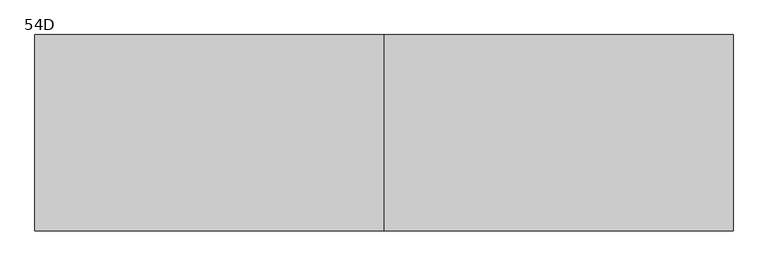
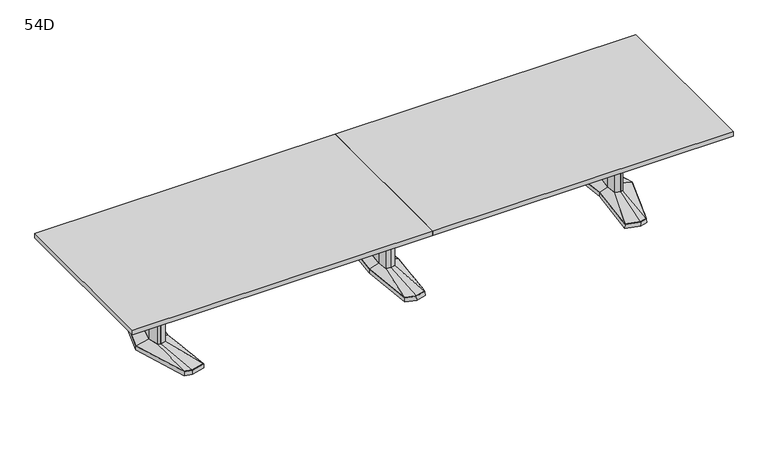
"""IFC4 building model written with IfcOpenShell, lengths in millimetres: furniture geometry, Coalesse_AM_Table_Conference_ETable2_Rectangular_16ft_AluminiumBase : 54D."""

from ifc_helpers import new_model, si_unit, frame, origin, place, context, project, spatial, polyline, outline, extrude, faceted_brep, source, transform, mapped, element, save
from ifc_brep_helpers import plane_surface, spline_surface, advanced_brep


def furniture_54d_c7ea6fb3(model_context):
    return source(origin(), model_context, "Body", "SolidModel", [
        faceted_brep([(-81.2333791, -433.8053819, 38.1), (0.0, -455.556576, 38.1), (81.2333791, -433.8053819, 38.1), (119.0564774, 0.0, 38.1), (81.2333791, 433.8053819, 38.1), (0.0, 455.556576, 38.1), (-81.2333791, 433.8053819, 38.1), (-119.0564774, 0.0, 38.1), (-82.7182795, -435.0512063, 3.175), (-120.65, 0.0, 3.175), (-82.7182795, 435.0512063, 3.175), (0.0, 457.2, 3.175), (82.7182795, 435.0512063, 3.175), (120.65, 0.0, 3.175), (82.7182795, -435.0512063, 3.175), (0.0, -457.2, 3.175), (0.0, 429.2617927, 3.175), (-77.9676806, 408.3850278, 3.175), (-74.7019821, 382.9646737, 3.175), (0.0, 402.9670094, 3.175), (74.7019821, 382.9646737, 3.175), (77.9676806, 408.3850278, 3.175), (0.0, -429.2617927, 3.175), (77.9676806, -408.3850278, 3.175), (74.7019821, -382.9646737, 3.175), (0.0, -402.9670094, 3.175), (-74.7019821, -382.9646737, 3.175), (-77.9676806, -408.3850278, 3.175), (-71.8574262, 114.6326257, 3.175), (-82.5426076, 0.0, 3.175), (-71.8574262, -114.6326257, 3.175), (0.0, -133.8761372, 3.175), (71.8574262, -114.6326257, 3.175), (82.5426076, 0.0, 3.175), (71.8574262, 114.6326257, 3.175), (0.0, 133.8761372, 3.175), (0.0, 429.2617927, 0.0), (77.9676806, 408.3850278, 0.0), (74.7019821, 382.9646737, 0.0), (0.0, 402.9670094, 0.0), (-74.7019821, 382.9646737, 0.0), (-77.9676806, 408.3850278, 0.0), (0.0, -429.2617927, 0.0), (-77.9676806, -408.3850278, 0.0), (-74.7019821, -382.9646737, 0.0), (0.0, -402.9670094, 0.0), (74.7019821, -382.9646737, 0.0), (77.9676806, -408.3850278, 0.0), (-71.8574262, 114.6326257, 0.0), (0.0, 133.8761372, 0.0), (71.8574262, 114.6326257, 0.0), (82.5426076, 0.0, 0.0), (71.8574262, -114.6326257, 0.0), (0.0, -133.8761372, 0.0), (-71.8574262, -114.6326257, 0.0), (-82.5426076, 0.0, 0.0)], [[[0, 1, 2, 3, 4, 5, 6, 7]], [[8, 9, 10, 11, 12, 13, 14, 15], [16, 17, 18, 19, 20, 21], [22, 23, 24, 25, 26, 27], [28, 29, 30, 31, 32, 33, 34, 35]], [[1, 0, 8, 15]], [[2, 1, 15, 14]], [[3, 2, 14, 13]], [[4, 3, 13, 12]], [[5, 4, 12, 11]], [[6, 5, 11, 10]], [[7, 6, 10, 9]], [[0, 7, 9, 8]], [[36, 37, 38, 39, 40, 41]], [[42, 43, 44, 45, 46, 47]], [[48, 49, 50, 51, 52, 53, 54, 55]], [[36, 41, 17, 16]], [[41, 40, 18, 17]], [[40, 39, 19, 18]], [[39, 38, 20, 19]], [[38, 37, 21, 20]], [[37, 36, 16, 21]], [[42, 47, 23, 22]], [[47, 46, 24, 23]], [[46, 45, 25, 24]], [[45, 44, 26, 25]], [[44, 43, 27, 26]], [[43, 42, 22, 27]], [[48, 55, 29, 28]], [[55, 54, 30, 29]], [[54, 53, 31, 30]], [[53, 52, 32, 31]], [[52, 51, 33, 32]], [[51, 50, 34, 33]], [[50, 49, 35, 34]], [[49, 48, 28, 35]]]),
        faceted_brep([(-36.3832834, 84.6900825, 698.5), (-44.2774487, 0.0, 698.5), (-36.3832834, -84.6900825, 698.5), (0.0, -94.4335728, 698.5), (36.3832834, -84.6900825, 698.5), (44.2774487, 0.0, 698.5), (36.3832834, 84.6900825, 698.5), (0.0, 94.4335728, 698.5), (-36.3832834, 84.6900825, 63.5), (0.0, 94.4335728, 63.5), (36.3832834, 84.6900825, 63.5), (44.2774487, 0.0, 63.5), (36.3832834, -84.6900825, 63.5), (0.0, -94.4335728, 63.5), (-36.3832834, -84.6900825, 63.5), (-44.2774487, 0.0, 63.5)], [[[0, 1, 2, 3, 4, 5, 6, 7]], [[8, 9, 10, 11, 12, 13, 14, 15]], [[1, 0, 8, 15]], [[2, 1, 15, 14]], [[3, 2, 14, 13]], [[4, 3, 13, 12]], [[5, 4, 12, 11]], [[6, 5, 11, 10]], [[7, 6, 10, 9]], [[0, 7, 9, 8]]]),
        advanced_brep(
        [(-36.3832834, 84.6900825, 63.5), (-44.2774487, 0.0, 63.5), (-36.3832834, -84.6900825, 63.5), (0.0, -94.4335728, 63.5), (36.3832834, -84.6900825, 63.5), (44.2774487, 0.0, 63.5), (36.3832834, 84.6900825, 63.5), (0.0, 94.4335728, 63.5), (-81.2333791, 433.8053819, 38.1), (0.0, 455.556576, 38.1), (81.2333791, 433.8053819, 38.1), (119.0564774, 0.0, 38.1), (81.2333791, -433.8053819, 38.1), (0.0, -455.556576, 38.1), (-81.2333791, -433.8053819, 38.1), (-119.0564774, 0.0, 38.1)],
        [
            (0, 1),
            (1, 2),
            (2, 3),
            (3, 4),
            (4, 5),
            (5, 6),
            (6, 7),
            (7, 0),
            (8, 9),
            (9, 10),
            (10, 11),
            (11, 12),
            (12, 13),
            (13, 14),
            (14, 15),
            (15, 8),
            (15, 1),
            (0, 8),
            (14, 2),
            (13, 3),
            (12, 4),
            (11, 5),
            (10, 6),
            (9, 7),
        ],
        [
            plane_surface(frame((0.0, 0.0, 63.5), z_axis=(0.0, 0.0, 1.0000000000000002), x_axis=(-0.9659615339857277, -0.25868574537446, 0.0))),
            plane_surface(frame((0.0, 0.0, 38.1), z_axis=(0.0, 0.0, -1.0000000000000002), x_axis=(-0.9659615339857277, -0.25868574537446, 0.0))),
            spline_surface(1, 1, [[(-81.2333791, 433.8053819, 38.1), (-36.3832834, 84.6900825, 63.5)], [(-119.0564774, 0.0, 38.1), (-44.2774487, 0.0, 63.5)]], [2, 2], [2, 2], [0.0, 1.0], [0.0, 1.0]),
            spline_surface(1, 1, [[(-119.0564774, 0.0, 38.1), (-44.2774487, 0.0, 63.5)], [(-81.2333791, -433.8053819, 38.1), (-36.3832834, -84.6900825, 63.5)]], [2, 2], [2, 2], [0.0, 1.0], [0.0, 1.0]),
            spline_surface(1, 1, [[(-81.2333791, -433.8053819, 38.1), (-36.3832834, -84.6900825, 63.5)], [(0.0, -455.556576, 38.1), (0.0, -94.4335728, 63.5)]], [2, 2], [2, 2], [0.0, 1.0], [0.0, 1.0]),
            spline_surface(1, 1, [[(0.0, -455.556576, 38.1), (0.0, -94.4335728, 63.5)], [(81.2333791, -433.8053819, 38.1), (36.3832834, -84.6900825, 63.5)]], [2, 2], [2, 2], [0.0, 1.0], [0.0, 1.0]),
            spline_surface(1, 1, [[(81.2333791, -433.8053819, 38.1), (36.3832834, -84.6900825, 63.5)], [(119.0564774, 0.0, 38.1), (44.2774487, 0.0, 63.5)]], [2, 2], [2, 2], [0.0, 1.0], [0.0, 1.0]),
            spline_surface(1, 1, [[(119.0564774, 0.0, 38.1), (44.2774487, 0.0, 63.5)], [(81.2333791, 433.8053819, 38.1), (36.3832834, 84.6900825, 63.5)]], [2, 2], [2, 2], [0.0, 1.0], [0.0, 1.0]),
            spline_surface(1, 1, [[(81.2333791, 433.8053819, 38.1), (36.3832834, 84.6900825, 63.5)], [(0.0, 455.556576, 38.1), (0.0, 94.4335728, 63.5)]], [2, 2], [2, 2], [0.0, 1.0], [0.0, 1.0]),
            spline_surface(1, 1, [[(0.0, 455.556576, 38.1), (0.0, 94.4335728, 63.5)], [(-81.2333791, 433.8053819, 38.1), (-36.3832834, 84.6900825, 63.5)]], [2, 2], [2, 2], [0.0, 1.0], [0.0, 1.0]),
        ],
        [
            (0, [[1, 2, 3, 4, 5, 6, 7, 8]]),
            (1, [[9, 10, 11, 12, 13, 14, 15, 16]]),
            (2, [[-16, 17, -1, 18]]),
            (3, [[-15, 19, -2, -17]]),
            (4, [[-14, 20, -3, -19]]),
            (5, [[-13, 21, -4, -20]]),
            (6, [[-12, 22, -5, -21]]),
            (7, [[-11, 23, -6, -22]]),
            (8, [[-10, 24, -7, -23]]),
            (9, [[-9, -18, -8, -24]]),
        ],
    ),
        faceted_brep([(1820.2306835, 455.5848221, 38.1), (1710.6531277, 426.2263816, 38.1), (1751.8163717, 0.0, 38.1), (1710.6531277, -426.2263816, 38.1), (1820.2306835, -455.5848221, 38.1), (1876.3570396, -440.5478297, 38.1), (2013.6684269, 0.0, 38.1), (1876.3570396, 440.5478297, 38.1), (1820.2306754, 457.2283104, 3.175), (1877.6124472, 441.8549756, 3.175), (2015.33125, 0.0, 3.175), (1877.6124472, -441.8549756, 3.175), (1820.2306754, -457.2283104, 3.175), (1708.94375, -427.4118891, 3.175), (1750.2214856, 0.0, 3.175), (1708.94375, 427.4118891, 3.175), (1823.820115, 428.3273875, 3.175), (1718.7718228, 402.1057253, 3.175), (1726.890518, 377.985069, 3.175), (1827.4095466, 401.0699529, 3.175), (1877.9691725, 387.524361, 3.175), (1877.1631061, 414.0360954, 3.175), (1823.820115, -428.3273875, 3.175), (1877.1631061, -414.0360954, 3.175), (1877.9691725, -387.524361, 3.175), (1827.4095466, -401.0699529, 3.175), (1726.890518, -377.985069, 3.175), (1718.7718228, -402.1057253, 3.175), (1950.4153621, 0.0, 3.175), (1918.1459611, 120.4193755, 3.175), (1869.4987222, 133.471665, 3.175), (1789.6180526, 119.4176561, 3.175), (1778.4868466, 0.0, 3.175), (1789.6180526, -119.4176561, 3.175), (1869.4987222, -133.471665, 3.175), (1918.1459611, -120.4193755, 3.175), (1823.820115, 428.3273875, 0.0), (1877.1631061, 414.0360954, 0.0), (1877.9691725, 387.524361, 0.0), (1827.4095466, 401.0699529, 0.0), (1726.890518, 377.985069, 0.0), (1718.7718228, 402.1057253, 0.0), (1823.820115, -428.3273875, 0.0), (1718.7718228, -402.1057253, 0.0), (1726.890518, -377.985069, 0.0), (1827.4095466, -401.0699529, 0.0), (1877.9691725, -387.524361, 0.0), (1877.1631061, -414.0360954, 0.0), (1950.4153621, 0.0, 0.0), (1918.1459611, -120.4193755, 0.0), (1869.4987222, -133.471665, 0.0), (1789.6180526, -119.4176561, 0.0), (1778.4868466, 0.0, 0.0), (1789.6180526, 119.4176561, 0.0), (1869.4987222, 133.471665, 0.0), (1918.1459611, 120.4193755, 0.0)], [[[0, 1, 2, 3, 4, 5, 6, 7]], [[8, 9, 10, 11, 12, 13, 14, 15], [16, 17, 18, 19, 20, 21], [22, 23, 24, 25, 26, 27], [28, 29, 30, 31, 32, 33, 34, 35]], [[7, 9, 8, 0]], [[6, 10, 9, 7]], [[5, 11, 10, 6]], [[4, 12, 11, 5]], [[3, 13, 12, 4]], [[2, 14, 13, 3]], [[1, 15, 14, 2]], [[0, 8, 15, 1]], [[36, 37, 38, 39, 40, 41]], [[42, 43, 44, 45, 46, 47]], [[48, 49, 50, 51, 52, 53, 54, 55]], [[36, 16, 21, 37]], [[37, 21, 20, 38]], [[38, 20, 19, 39]], [[39, 19, 18, 40]], [[40, 18, 17, 41]], [[41, 17, 16, 36]], [[42, 22, 27, 43]], [[43, 27, 26, 44]], [[44, 26, 25, 45]], [[45, 25, 24, 46]], [[46, 24, 23, 47]], [[47, 23, 22, 42]], [[48, 28, 35, 49]], [[49, 35, 34, 50]], [[50, 34, 33, 51]], [[51, 33, 32, 52]], [[52, 32, 31, 53]], [[53, 31, 30, 54]], [[54, 30, 29, 55]], [[55, 29, 28, 48]]]),
        faceted_brep([(1910.9710836, 0.0, 698.5), (1887.0358546, 89.3188359, 698.5), (1870.1824984, 93.8406728, 698.5), (1867.7826511, 94.4845635, 698.5), (1824.855146, 86.9320037, 698.5), (1816.7520056, 0.0, 698.5), (1824.855146, -86.9320037, 698.5), (1867.7826511, -94.4845635, 698.5), (1870.1824984, -93.8406728, 698.5), (1887.0358546, -89.3188359, 698.5), (1910.9710836, 0.0, 63.5), (1887.0358546, -89.3188359, 63.5), (1870.1824984, -93.8406728, 63.5), (1867.7826511, -94.4845635, 63.5), (1824.855146, -86.9320037, 63.5), (1816.7520056, 0.0, 63.5), (1824.855146, 86.9320037, 63.5), (1867.7826511, 94.4845635, 63.5), (1870.1824984, 93.8406728, 63.5), (1887.0358546, 89.3188359, 63.5)], [[[0, 1, 2, 3, 4, 5, 6, 7, 8, 9]], [[10, 11, 12, 13, 14, 15, 16, 17, 18, 19]], [[9, 11, 10, 0]], [[8, 12, 11, 9]], [[7, 13, 12, 8]], [[6, 14, 13, 7]], [[5, 15, 14, 6]], [[4, 16, 15, 5]], [[3, 17, 16, 4]], [[2, 18, 17, 3]], [[1, 19, 18, 2]], [[0, 10, 19, 1]]]),
        advanced_brep(
        [(1867.7826511, 94.4845635, 63.5), (1824.855146, 86.9320037, 63.5), (1816.7520056, 0.0, 63.5), (1824.855146, -86.9320037, 63.5), (1867.7826511, -94.4845635, 63.5), (1887.0358546, -89.3188359, 63.5), (1910.9710836, 0.0, 63.5), (1887.0358546, 89.3188359, 63.5), (1820.2306835, 455.5848221, 38.1), (1876.3570396, 440.5478297, 38.1), (2013.6684269, 0.0, 38.1), (1876.3570396, -440.5478297, 38.1), (1820.2306835, -455.5848221, 38.1), (1710.6531277, -426.2263816, 38.1), (1751.8163717, 0.0, 38.1), (1710.6531277, 426.2263816, 38.1)],
        [
            (0, 1),
            (1, 2),
            (2, 3),
            (3, 4),
            (4, 5),
            (5, 6),
            (6, 7),
            (7, 0),
            (8, 9),
            (9, 10),
            (10, 11),
            (11, 12),
            (12, 13),
            (13, 14),
            (14, 15),
            (15, 8),
            (8, 0),
            (7, 9),
            (6, 10),
            (5, 11),
            (4, 12),
            (3, 13),
            (2, 14),
            (1, 15),
        ],
        [
            plane_surface(frame((1860.8837991, 0.0, 63.5), z_axis=(0.0, 0.0, 1.0), x_axis=(-0.25884244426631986, -0.9659195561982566, 0.0))),
            plane_surface(frame((1822.4958125, 0.0, 38.1), z_axis=(0.0, 0.0, -1.0), x_axis=(-0.25884244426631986, -0.9659195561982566, 0.0))),
            spline_surface(1, 1, [[(1820.2306835, 455.5848221, 38.1), (1876.3570396, 440.5478297, 38.1)], [(1867.7826511, 94.4845635, 63.5), (1887.0358546, 89.3188359, 63.5)]], [2, 2], [2, 2], [0.0, 1.0], [0.0, 1.0]),
            spline_surface(1, 1, [[(1876.3570396, 440.5478297, 38.1), (2013.6684269, 0.0, 38.1)], [(1887.0358546, 89.3188359, 63.5), (1910.9710836, 0.0, 63.5)]], [2, 2], [2, 2], [0.0, 1.0], [0.0, 1.0]),
            spline_surface(1, 1, [[(2013.6684269, 0.0, 38.1), (1876.3570396, -440.5478297, 38.1)], [(1910.9710836, 0.0, 63.5), (1887.0358546, -89.3188359, 63.5)]], [2, 2], [2, 2], [0.0, 1.0], [0.0, 1.0]),
            spline_surface(1, 1, [[(1876.3570396, -440.5478297, 38.1), (1820.2306835, -455.5848221, 38.1)], [(1887.0358546, -89.3188359, 63.5), (1867.7826511, -94.4845635, 63.5)]], [2, 2], [2, 2], [0.0, 1.0], [0.0, 1.0]),
            spline_surface(1, 1, [[(1820.2306835, -455.5848221, 38.1), (1710.6531277, -426.2263816, 38.1)], [(1867.7826511, -94.4845635, 63.5), (1824.855146, -86.9320037, 63.5)]], [2, 2], [2, 2], [0.0, 1.0], [0.0, 1.0]),
            spline_surface(1, 1, [[(1710.6531277, -426.2263816, 38.1), (1751.8163717, 0.0, 38.1)], [(1824.855146, -86.9320037, 63.5), (1816.7520056, 0.0, 63.5)]], [2, 2], [2, 2], [0.0, 1.0], [0.0, 1.0]),
            spline_surface(1, 1, [[(1751.8163717, 0.0, 38.1), (1710.6531277, 426.2263816, 38.1)], [(1816.7520056, 0.0, 63.5), (1824.855146, 86.9320037, 63.5)]], [2, 2], [2, 2], [0.0, 1.0], [0.0, 1.0]),
            spline_surface(1, 1, [[(1710.6531277, 426.2263816, 38.1), (1820.2306835, 455.5848221, 38.1)], [(1824.855146, 86.9320037, 63.5), (1867.7826511, 94.4845635, 63.5)]], [2, 2], [2, 2], [0.0, 1.0], [0.0, 1.0]),
        ],
        [
            (0, [[1, 2, 3, 4, 5, 6, 7, 8]]),
            (1, [[9, 10, 11, 12, 13, 14, 15, 16]]),
            (2, [[17, -8, 18, -9]]),
            (3, [[-18, -7, 19, -10]]),
            (4, [[-19, -6, 20, -11]]),
            (5, [[-20, -5, 21, -12]]),
            (6, [[-21, -4, 22, -13]]),
            (7, [[-22, -3, 23, -14]]),
            (8, [[-23, -2, 24, -15]]),
            (9, [[-24, -1, -17, -16]]),
        ],
    ),
        faceted_brep([(-1820.2306835, 455.5848221, 38.1), (-1876.3570396, 440.5478297, 38.1), (-2013.6684269, 0.0, 38.1), (-1876.3570396, -440.5478297, 38.1), (-1820.2306835, -455.5848221, 38.1), (-1710.6531277, -426.2263816, 38.1), (-1751.8163717, 0.0, 38.1), (-1710.6531277, 426.2263816, 38.1), (-1820.2306754, 457.2283104, 3.175), (-1708.94375, 427.4118891, 3.175), (-1750.2214856, 0.0, 3.175), (-1708.94375, -427.4118891, 3.175), (-1820.2306754, -457.2283104, 3.175), (-1877.6124472, -441.8549756, 3.175), (-2015.33125, 0.0, 3.175), (-1877.6124472, 441.8549756, 3.175), (-1823.820115, 428.3273875, 3.175), (-1877.1631061, 414.0360954, 3.175), (-1877.9691725, 387.524361, 3.175), (-1827.4095466, 401.0699529, 3.175), (-1726.890518, 377.985069, 3.175), (-1718.7718228, 402.1057253, 3.175), (-1823.820115, -428.3273875, 3.175), (-1718.7718228, -402.1057253, 3.175), (-1726.890518, -377.985069, 3.175), (-1827.4095466, -401.0699529, 3.175), (-1877.9691725, -387.524361, 3.175), (-1877.1631061, -414.0360954, 3.175), (-1950.4153621, 0.0, 3.175), (-1918.1459611, -120.4193755, 3.175), (-1869.4987222, -133.471665, 3.175), (-1789.6180526, -119.4176561, 3.175), (-1778.4868466, 0.0, 3.175), (-1789.6180526, 119.4176561, 3.175), (-1869.4987222, 133.471665, 3.175), (-1918.1459611, 120.4193755, 3.175), (-1823.820115, 428.3273875, 0.0), (-1718.7718228, 402.1057253, 0.0), (-1726.890518, 377.985069, 0.0), (-1827.4095466, 401.0699529, 0.0), (-1877.9691725, 387.524361, 0.0), (-1877.1631061, 414.0360954, 0.0), (-1823.820115, -428.3273875, 0.0), (-1877.1631061, -414.0360954, 0.0), (-1877.9691725, -387.524361, 0.0), (-1827.4095466, -401.0699529, 0.0), (-1726.890518, -377.985069, 0.0), (-1718.7718228, -402.1057253, 0.0), (-1950.4153621, 0.0, 0.0), (-1918.1459611, 120.4193755, 0.0), (-1869.4987222, 133.471665, 0.0), (-1789.6180526, 119.4176561, 0.0), (-1778.4868466, 0.0, 0.0), (-1789.6180526, -119.4176561, 0.0), (-1869.4987222, -133.471665, 0.0), (-1918.1459611, -120.4193755, 0.0)], [[[0, 1, 2, 3, 4, 5, 6, 7]], [[8, 9, 10, 11, 12, 13, 14, 15], [16, 17, 18, 19, 20, 21], [22, 23, 24, 25, 26, 27], [28, 29, 30, 31, 32, 33, 34, 35]], [[1, 0, 8, 15]], [[2, 1, 15, 14]], [[3, 2, 14, 13]], [[4, 3, 13, 12]], [[5, 4, 12, 11]], [[6, 5, 11, 10]], [[7, 6, 10, 9]], [[0, 7, 9, 8]], [[36, 37, 38, 39, 40, 41]], [[42, 43, 44, 45, 46, 47]], [[48, 49, 50, 51, 52, 53, 54, 55]], [[36, 41, 17, 16]], [[41, 40, 18, 17]], [[40, 39, 19, 18]], [[39, 38, 20, 19]], [[38, 37, 21, 20]], [[37, 36, 16, 21]], [[42, 47, 23, 22]], [[47, 46, 24, 23]], [[46, 45, 25, 24]], [[45, 44, 26, 25]], [[44, 43, 27, 26]], [[43, 42, 22, 27]], [[48, 55, 29, 28]], [[55, 54, 30, 29]], [[54, 53, 31, 30]], [[53, 52, 32, 31]], [[52, 51, 33, 32]], [[51, 50, 34, 33]], [[50, 49, 35, 34]], [[49, 48, 28, 35]]]),
        faceted_brep([(-1910.9710836, 0.0, 698.5), (-1887.0358546, -89.3188359, 698.5), (-1870.1824984, -93.8406728, 698.5), (-1867.7826511, -94.4845635, 698.5), (-1824.855146, -86.9320037, 698.5), (-1816.7520056, 0.0, 698.5), (-1824.855146, 86.9320037, 698.5), (-1867.7826511, 94.4845635, 698.5), (-1870.1824984, 93.8406728, 698.5), (-1887.0358546, 89.3188359, 698.5), (-1910.9710836, 0.0, 63.5), (-1887.0358546, 89.3188359, 63.5), (-1870.1824984, 93.8406728, 63.5), (-1867.7826511, 94.4845635, 63.5), (-1824.855146, 86.9320037, 63.5), (-1816.7520056, 0.0, 63.5), (-1824.855146, -86.9320037, 63.5), (-1867.7826511, -94.4845635, 63.5), (-1870.1824984, -93.8406728, 63.5), (-1887.0358546, -89.3188359, 63.5)], [[[0, 1, 2, 3, 4, 5, 6, 7, 8, 9]], [[10, 11, 12, 13, 14, 15, 16, 17, 18, 19]], [[1, 0, 10, 19]], [[2, 1, 19, 18]], [[3, 2, 18, 17]], [[4, 3, 17, 16]], [[5, 4, 16, 15]], [[6, 5, 15, 14]], [[7, 6, 14, 13]], [[8, 7, 13, 12]], [[9, 8, 12, 11]], [[0, 9, 11, 10]]]),
        advanced_brep(
        [(-1867.7826511, 94.4845635, 63.5), (-1887.0358546, 89.3188359, 63.5), (-1910.9710836, 0.0, 63.5), (-1887.0358546, -89.3188359, 63.5), (-1867.7826511, -94.4845635, 63.5), (-1824.855146, -86.9320037, 63.5), (-1816.7520056, 0.0, 63.5), (-1824.855146, 86.9320037, 63.5), (-1820.2306835, 455.5848221, 38.1), (-1710.6531277, 426.2263816, 38.1), (-1751.8163717, 0.0, 38.1), (-1710.6531277, -426.2263816, 38.1), (-1820.2306835, -455.5848221, 38.1), (-1876.3570396, -440.5478297, 38.1), (-2013.6684269, 0.0, 38.1), (-1876.3570396, 440.5478297, 38.1)],
        [
            (0, 1),
            (1, 2),
            (2, 3),
            (3, 4),
            (4, 5),
            (5, 6),
            (6, 7),
            (7, 0),
            (8, 9),
            (9, 10),
            (10, 11),
            (11, 12),
            (12, 13),
            (13, 14),
            (14, 15),
            (15, 8),
            (15, 1),
            (0, 8),
            (14, 2),
            (13, 3),
            (12, 4),
            (11, 5),
            (10, 6),
            (9, 7),
        ],
        [
            plane_surface(frame((-1860.8837991, 0.0, 63.5), z_axis=(0.0, 0.0, 1.0), x_axis=(0.25884244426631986, -0.9659195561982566, 0.0))),
            plane_surface(frame((-1822.4958125, 0.0, 38.1), z_axis=(0.0, 0.0, -1.0), x_axis=(0.25884244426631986, -0.9659195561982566, 0.0))),
            spline_surface(1, 1, [[(-1820.2306835, 455.5848221, 38.1), (-1867.7826511, 94.4845635, 63.5)], [(-1876.3570396, 440.5478297, 38.1), (-1887.0358546, 89.3188359, 63.5)]], [2, 2], [2, 2], [0.0, 1.0], [0.0, 1.0]),
            spline_surface(1, 1, [[(-1876.3570396, 440.5478297, 38.1), (-1887.0358546, 89.3188359, 63.5)], [(-2013.6684269, 0.0, 38.1), (-1910.9710836, 0.0, 63.5)]], [2, 2], [2, 2], [0.0, 1.0], [0.0, 1.0]),
            spline_surface(1, 1, [[(-2013.6684269, 0.0, 38.1), (-1910.9710836, 0.0, 63.5)], [(-1876.3570396, -440.5478297, 38.1), (-1887.0358546, -89.3188359, 63.5)]], [2, 2], [2, 2], [0.0, 1.0], [0.0, 1.0]),
            spline_surface(1, 1, [[(-1876.3570396, -440.5478297, 38.1), (-1887.0358546, -89.3188359, 63.5)], [(-1820.2306835, -455.5848221, 38.1), (-1867.7826511, -94.4845635, 63.5)]], [2, 2], [2, 2], [0.0, 1.0], [0.0, 1.0]),
            spline_surface(1, 1, [[(-1820.2306835, -455.5848221, 38.1), (-1867.7826511, -94.4845635, 63.5)], [(-1710.6531277, -426.2263816, 38.1), (-1824.855146, -86.9320037, 63.5)]], [2, 2], [2, 2], [0.0, 1.0], [0.0, 1.0]),
            spline_surface(1, 1, [[(-1710.6531277, -426.2263816, 38.1), (-1824.855146, -86.9320037, 63.5)], [(-1751.8163717, 0.0, 38.1), (-1816.7520056, 0.0, 63.5)]], [2, 2], [2, 2], [0.0, 1.0], [0.0, 1.0]),
            spline_surface(1, 1, [[(-1751.8163717, 0.0, 38.1), (-1816.7520056, 0.0, 63.5)], [(-1710.6531277, 426.2263816, 38.1), (-1824.855146, 86.9320037, 63.5)]], [2, 2], [2, 2], [0.0, 1.0], [0.0, 1.0]),
            spline_surface(1, 1, [[(-1710.6531277, 426.2263816, 38.1), (-1824.855146, 86.9320037, 63.5)], [(-1820.2306835, 455.5848221, 38.1), (-1867.7826511, 94.4845635, 63.5)]], [2, 2], [2, 2], [0.0, 1.0], [0.0, 1.0]),
        ],
        [
            (0, [[1, 2, 3, 4, 5, 6, 7, 8]]),
            (1, [[9, 10, 11, 12, 13, 14, 15, 16]]),
            (2, [[-16, 17, -1, 18]]),
            (3, [[-15, 19, -2, -17]]),
            (4, [[-14, 20, -3, -19]]),
            (5, [[-13, 21, -4, -20]]),
            (6, [[-12, 22, -5, -21]]),
            (7, [[-11, 23, -6, -22]]),
            (8, [[-10, 24, -7, -23]]),
            (9, [[-9, -18, -8, -24]]),
        ],
    ),
        extrude(outline(polyline([(96.8375, 698.5), (103.1875, 698.5), (103.1875, 476.25), (-103.1875, 476.25), (-103.1875, 698.5), (-96.8375, 698.5), (-96.8375, 482.6), (96.8375, 482.6), (96.8375, 698.5)])), frame((44.2774487, 0.0, 0.0), z_axis=(1.0, 0.0, 0.0), x_axis=(0.0, 1.0, 0.0)), (0.0, 0.0, 1.0), 1772.6163013),
        extrude(outline(polyline([(2438.4, 685.8), (2438.4, -685.8), (0.0, -685.8), (0.0, 685.8), (2438.4, 685.8)])), frame((0.0, 0.0, 698.5), z_axis=(0.0, 0.0, 1.0), x_axis=(1.0, 0.0, 0.0)), (0.0, 0.0, 1.0), 38.1),
        extrude(outline(polyline([(0.0, 685.8), (0.0, -685.8), (-2438.4, -685.8), (-2438.4, 685.8), (0.0, 685.8)])), frame((0.0, 0.0, 698.5), z_axis=(0.0, 0.0, 1.0), x_axis=(1.0, 0.0, 0.0)), (0.0, 0.0, 1.0), 38.1),
        extrude(outline(polyline([(96.8375, 698.5), (103.1875, 698.5), (103.1875, 476.25), (-103.1875, 476.25), (-103.1875, 698.5), (-96.8375, 698.5), (-96.8375, 482.6), (96.8375, 482.6), (96.8375, 698.5)])), frame((-1816.89375, 0.0, 0.0), z_axis=(1.0, 0.0, 0.0), x_axis=(0.0, 1.0, 0.0)), (0.0, 0.0, 1.0), 1772.6163013),
    ])


if __name__ == "__main__":
    model = new_model("IFC4")
    model_context = context("Model", 3, world=origin())
    ifc_project = project(units=[si_unit("LENGTHUNIT", "METRE", prefix="MILLI")], contexts=[model_context])
    site = spatial("IfcSite", under=ifc_project)
    building = spatial("IfcBuilding", under=site)
    placement = place(None, origin())
    furniture_54d_shape = furniture_54d_c7ea6fb3(model_context)
    element("IfcFurniture", 1, ObjectType="Coalesse_AM_Table_Conference_ETable2_Rectangular_16ft_AluminiumBase : 54D", at=placement, inside=building, context=model_context, shape_type="MappedRepresentation", body=[
        mapped(furniture_54d_shape, transform((0.0, 0.0, 0.0), x_axis=(1.0, 0.0, 0.0), y_axis=(0.0, 1.0, 0.0), z_axis=(0.0, 0.0, 1.0))),
    ])
    save(model, "model.ifc")
